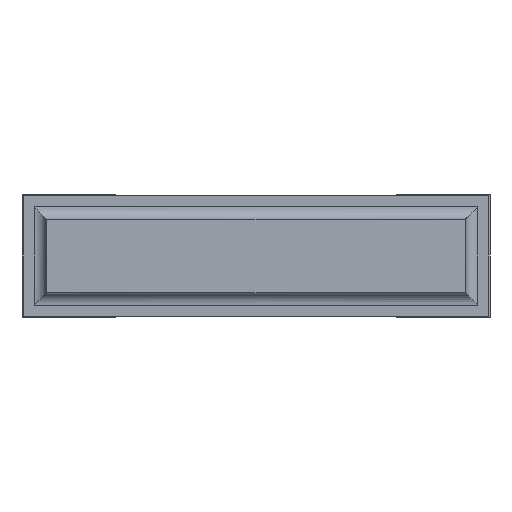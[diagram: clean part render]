
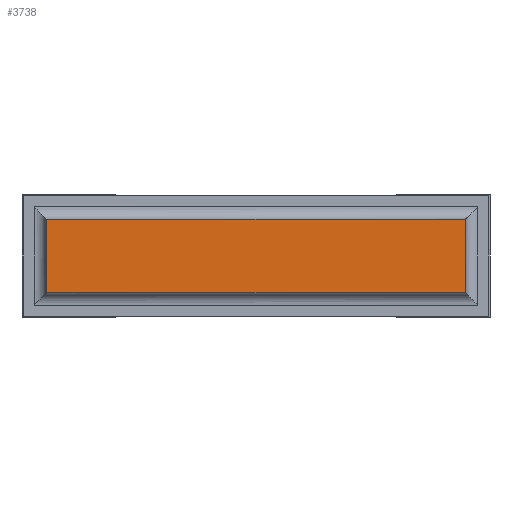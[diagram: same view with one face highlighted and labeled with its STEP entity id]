
A CAD part, front view. The second image highlights one B-rep face of the part: STEP entity #3738.
In plain terms, the highlighted planar face has unit normal (0, -1, 0).
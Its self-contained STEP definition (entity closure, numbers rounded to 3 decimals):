
#264=FACE_OUTER_BOUND('',#470,.T.);
#470=EDGE_LOOP('',(#3007,#3008,#3009,#3010));
#811=LINE('',#5763,#1279);
#836=LINE('',#5822,#1304);
#837=LINE('',#5824,#1305);
#838=LINE('',#5825,#1306);
#1279=VECTOR('',#4697,10.);
#1304=VECTOR('',#4750,10.);
#1305=VECTOR('',#4751,10.);
#1306=VECTOR('',#4752,10.);
#1695=VERTEX_POINT('',#5760);
#1696=VERTEX_POINT('',#5762);
#1716=VERTEX_POINT('',#5821);
#1717=VERTEX_POINT('',#5823);
#2149=EDGE_CURVE('',#1696,#1695,#811,.T.);
#2179=EDGE_CURVE('',#1695,#1716,#836,.T.);
#2180=EDGE_CURVE('',#1716,#1717,#837,.T.);
#2181=EDGE_CURVE('',#1717,#1696,#838,.T.);
#3007=ORIENTED_EDGE('',*,*,#2179,.T.);
#3008=ORIENTED_EDGE('',*,*,#2180,.T.);
#3009=ORIENTED_EDGE('',*,*,#2181,.T.);
#3010=ORIENTED_EDGE('',*,*,#2149,.T.);
#3548=PLANE('',#4023);
#3738=ADVANCED_FACE('',(#264),#3548,.T.);
#4023=AXIS2_PLACEMENT_3D('',#5820,#4748,#4749);
#4697=DIRECTION('',(0.,0.,-1.));
#4748=DIRECTION('center_axis',(0.,-1.,0.));
#4749=DIRECTION('ref_axis',(0.,0.,-1.));
#4750=DIRECTION('',(1.,0.,0.));
#4751=DIRECTION('',(0.,0.,1.));
#4752=DIRECTION('',(-1.,0.,0.));
#5760=CARTESIAN_POINT('',(0.1,0.,0.1));
#5762=CARTESIAN_POINT('',(0.1,0.,0.4));
#5763=CARTESIAN_POINT('',(0.1,0.,0.4));
#5820=CARTESIAN_POINT('Origin',(0.1,0.,0.25));
#5821=CARTESIAN_POINT('',(1.81,0.,0.1));
#5822=CARTESIAN_POINT('',(0.1,0.,0.1));
#5823=CARTESIAN_POINT('',(1.81,0.,0.4));
#5824=CARTESIAN_POINT('',(1.81,0.,0.1));
#5825=CARTESIAN_POINT('',(1.81,0.,0.4));
